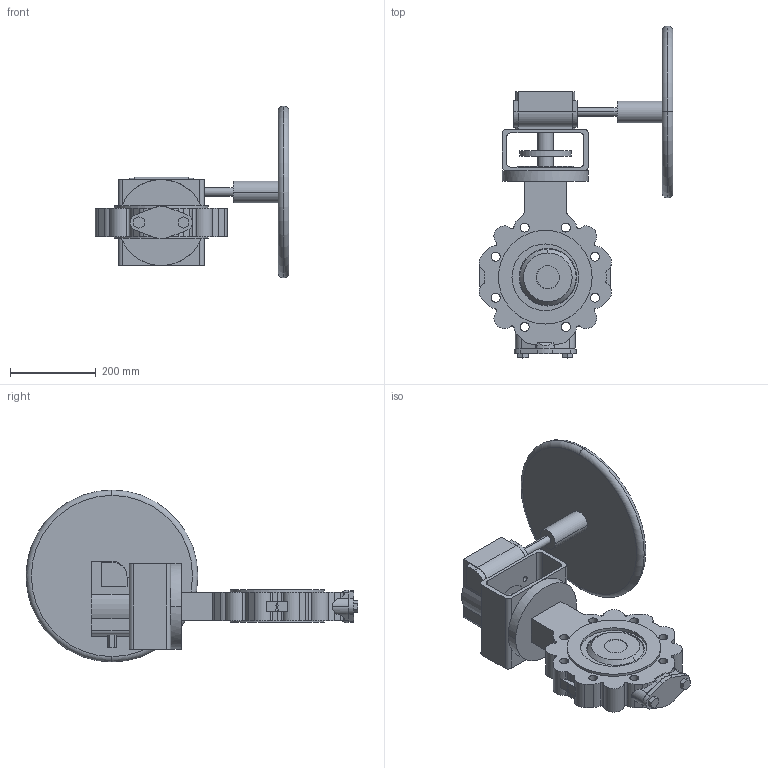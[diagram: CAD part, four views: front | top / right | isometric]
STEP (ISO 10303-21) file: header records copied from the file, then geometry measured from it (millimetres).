
FILE_DESCRIPTION( ( '' ), '1' );
FILE_NAME( 'F:/DE-SHS/TB/OR/04-Sonstiges/daten/Excel/mneugeba/018_ZETRIX-PN40_Getriebe-Rotork/c000006453.stp', '2016-09-19T06:41:07', ( '' ), ( '' ), ' ', ' ', ' ' );
FILE_SCHEMA( ( 'CONFIG_CONTROL_DESIGN' ) );
Length unit declared in the file: millimetre
Products named in the file (2): 1; 2
Bounding box: 451.15 x 772.4 x 400 mm (x, y, z)
Volume: 12094315.8 mm3; surface area: 997318.6 mm2
Topology: 2 solids, 2 shells, 329 faces, 900 edges, 597 vertices
Faces by surface type: cylinder 171, plane 148, cone 4, torus 4, sphere 2
Entity records: 11633 total; most frequent: CARTESIAN_POINT 2804, DIRECTION 1919, ORIENTED_EDGE 1800, EDGE_CURVE 900, AXIS2_PLACEMENT_3D 722, VERTEX_POINT 597, LINE 475, VECTOR 475
